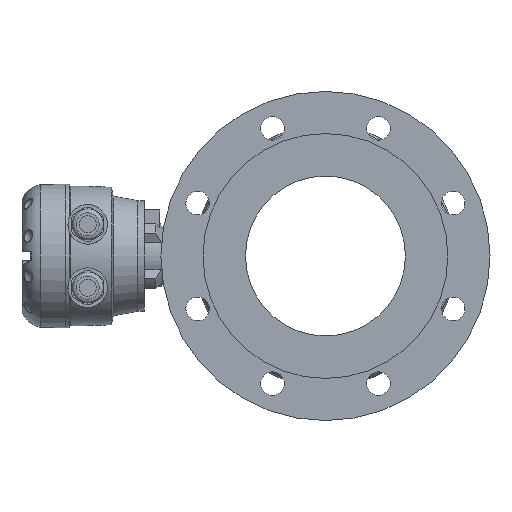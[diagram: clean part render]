
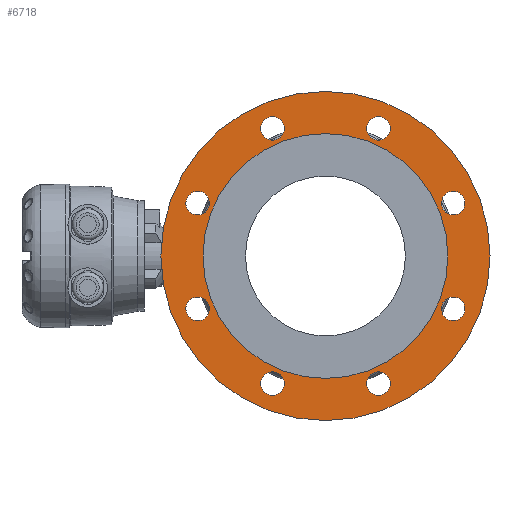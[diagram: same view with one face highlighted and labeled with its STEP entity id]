
A CAD part, left-side view. The second image highlights one B-rep face of the part: STEP entity #6718.
In plain terms, the highlighted planar face has unit normal (-1, 0, 0).
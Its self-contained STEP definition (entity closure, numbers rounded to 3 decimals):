
#692 = PLANE ( 'NONE',  #11926 ) ;
#699 = CARTESIAN_POINT ( 'NONE',  ( -114.805, -131.017, -10.543 ) ) ;
#703 = DIRECTION ( 'NONE',  ( -1., 0., 0. ) ) ;
#704 = DIRECTION ( 'NONE',  ( 0., 0., -1. ) ) ;
#6718 = ADVANCED_FACE ( 'NONE', ( #8316, #8322, #8324, #8326, #8320, #8315, #8323, #8325, #8327, #8321 ), #692, .T. ) ;
#8315 = FACE_BOUND ( 'NONE', #13946, .T. ) ;
#8316 = FACE_BOUND ( 'NONE', #13980, .T. ) ;
#8320 = FACE_BOUND ( 'NONE', #13943, .T. ) ;
#8321 = FACE_BOUND ( 'NONE', #13990, .T. ) ;
#8322 = FACE_BOUND ( 'NONE', #13893, .T. ) ;
#8323 = FACE_BOUND ( 'NONE', #13952, .T. ) ;
#8324 = FACE_BOUND ( 'NONE', #13899, .T. ) ;
#8325 = FACE_BOUND ( 'NONE', #13950, .T. ) ;
#8326 = FACE_BOUND ( 'NONE', #13910, .T. ) ;
#8327 = FACE_OUTER_BOUND ( 'NONE', #13945, .T. ) ;
#8606 = CIRCLE ( 'NONE', #12024, 93. ) ;
#8748 = CIRCLE ( 'NONE', #12071, 9. ) ;
#8768 = CIRCLE ( 'NONE', #12080, 125. ) ;
#8783 = CIRCLE ( 'NONE', #12087, 9. ) ;
#8788 = CIRCLE ( 'NONE', #12090, 9. ) ;
#8791 = CIRCLE ( 'NONE', #12082, 9. ) ;
#8793 = CIRCLE ( 'NONE', #12093, 9. ) ;
#8794 = CIRCLE ( 'NONE', #12094, 9. ) ;
#8796 = CIRCLE ( 'NONE', #12095, 9. ) ;
#8801 = CIRCLE ( 'NONE', #12086, 9. ) ;
#9923 = CARTESIAN_POINT ( 'NONE',  ( -114.805, -131.017, -10.543 ) ) ;
#9926 = DIRECTION ( 'NONE',  ( 1., 0., 0. ) ) ;
#9927 = DIRECTION ( 'NONE',  ( 0., 0., -1. ) ) ;
#10664 = CARTESIAN_POINT ( 'NONE',  ( -114.805, -90.835, 86.465 ) ) ;
#10674 = DIRECTION ( 'NONE',  ( -1., 0., 0. ) ) ;
#10676 = DIRECTION ( 'NONE',  ( 0., 0., 1. ) ) ;
#10735 = CARTESIAN_POINT ( 'NONE',  ( -114.805, -131.017, -10.543 ) ) ;
#10746 = DIRECTION ( 'NONE',  ( 1., 0., 0. ) ) ;
#10748 = DIRECTION ( 'NONE',  ( 0., 0., -1. ) ) ;
#10770 = CARTESIAN_POINT ( 'NONE',  ( -114.805, -34.01, -50.725 ) ) ;
#10788 = DIRECTION ( 'NONE',  ( -1., 0., 0. ) ) ;
#10789 = DIRECTION ( 'NONE',  ( 0., 0., 1. ) ) ;
#10795 = CARTESIAN_POINT ( 'NONE',  ( -114.805, -90.835, -107.55 ) ) ;
#10800 = CARTESIAN_POINT ( 'NONE',  ( -114.805, -228.024, -50.725 ) ) ;
#10807 = DIRECTION ( 'NONE',  ( -1., 0., 0. ) ) ;
#10808 = DIRECTION ( 'NONE',  ( 0., 0., 1. ) ) ;
#10813 = CARTESIAN_POINT ( 'NONE',  ( -114.805, -171.199, -107.55 ) ) ;
#10814 = DIRECTION ( 'NONE',  ( -1., 0., 0. ) ) ;
#10815 = DIRECTION ( 'NONE',  ( 0., 0., 1. ) ) ;
#10816 = CARTESIAN_POINT ( 'NONE',  ( -114.805, -34.01, 29.639 ) ) ;
#10821 = CARTESIAN_POINT ( 'NONE',  ( -114.805, -228.024, 29.639 ) ) ;
#10822 = DIRECTION ( 'NONE',  ( -1., 0., 0. ) ) ;
#10823 = DIRECTION ( 'NONE',  ( 0., 0., 1. ) ) ;
#10824 = DIRECTION ( 'NONE',  ( -1., 0., 0. ) ) ;
#10825 = DIRECTION ( 'NONE',  ( 0., 0., 1. ) ) ;
#10827 = DIRECTION ( 'NONE',  ( -1., 0., 0. ) ) ;
#10828 = DIRECTION ( 'NONE',  ( 0., 0., 1. ) ) ;
#10850 = CARTESIAN_POINT ( 'NONE',  ( -114.805, -171.199, 86.465 ) ) ;
#10857 = DIRECTION ( 'NONE',  ( -1., 0., 0. ) ) ;
#10858 = DIRECTION ( 'NONE',  ( 0., 0., 1. ) ) ;
#11262 = EDGE_CURVE ( 'NONE', #15663, #15663, #8606, .T. ) ;
#11384 = EDGE_CURVE ( 'NONE', #15718, #15718, #8748, .T. ) ;
#11399 = EDGE_CURVE ( 'NONE', #15751, #15751, #8768, .T. ) ;
#11409 = EDGE_CURVE ( 'NONE', #15777, #15777, #8783, .T. ) ;
#11413 = EDGE_CURVE ( 'NONE', #15788, #15788, #8788, .T. ) ;
#11415 = EDGE_CURVE ( 'NONE', #15792, #15792, #8791, .T. ) ;
#11417 = EDGE_CURVE ( 'NONE', #15799, #15799, #8793, .T. ) ;
#11418 = EDGE_CURVE ( 'NONE', #15803, #15803, #8794, .T. ) ;
#11419 = EDGE_CURVE ( 'NONE', #15806, #15806, #8796, .T. ) ;
#11423 = EDGE_CURVE ( 'NONE', #15810, #15810, #8801, .T. ) ;
#11926 = AXIS2_PLACEMENT_3D ( 'NONE', #699, #703, #704 ) ;
#12024 = AXIS2_PLACEMENT_3D ( 'NONE', #9923, #9926, #9927 ) ;
#12071 = AXIS2_PLACEMENT_3D ( 'NONE', #10664, #10674, #10676 ) ;
#12080 = AXIS2_PLACEMENT_3D ( 'NONE', #10735, #10746, #10748 ) ;
#12082 = AXIS2_PLACEMENT_3D ( 'NONE', #10813, #10814, #10815 ) ;
#12086 = AXIS2_PLACEMENT_3D ( 'NONE', #10850, #10857, #10858 ) ;
#12087 = AXIS2_PLACEMENT_3D ( 'NONE', #10770, #10788, #10789 ) ;
#12090 = AXIS2_PLACEMENT_3D ( 'NONE', #10795, #10807, #10808 ) ;
#12093 = AXIS2_PLACEMENT_3D ( 'NONE', #10800, #10822, #10823 ) ;
#12094 = AXIS2_PLACEMENT_3D ( 'NONE', #10816, #10824, #10825 ) ;
#12095 = AXIS2_PLACEMENT_3D ( 'NONE', #10821, #10827, #10828 ) ;
#12601 = ORIENTED_EDGE ( 'NONE', *, *, #11418, .F. ) ;
#12602 = ORIENTED_EDGE ( 'NONE', *, *, #11384, .F. ) ;
#12603 = ORIENTED_EDGE ( 'NONE', *, *, #11423, .F. ) ;
#12604 = ORIENTED_EDGE ( 'NONE', *, *, #11419, .F. ) ;
#12605 = ORIENTED_EDGE ( 'NONE', *, *, #11417, .F. ) ;
#12606 = ORIENTED_EDGE ( 'NONE', *, *, #11415, .F. ) ;
#12607 = ORIENTED_EDGE ( 'NONE', *, *, #11413, .F. ) ;
#12608 = ORIENTED_EDGE ( 'NONE', *, *, #11409, .F. ) ;
#12609 = ORIENTED_EDGE ( 'NONE', *, *, #11399, .F. ) ;
#12610 = ORIENTED_EDGE ( 'NONE', *, *, #11262, .T. ) ;
#13893 = EDGE_LOOP ( 'NONE', ( #12602 ) ) ;
#13899 = EDGE_LOOP ( 'NONE', ( #12603 ) ) ;
#13910 = EDGE_LOOP ( 'NONE', ( #12604 ) ) ;
#13943 = EDGE_LOOP ( 'NONE', ( #12605 ) ) ;
#13945 = EDGE_LOOP ( 'NONE', ( #12609 ) ) ;
#13946 = EDGE_LOOP ( 'NONE', ( #12606 ) ) ;
#13950 = EDGE_LOOP ( 'NONE', ( #12608 ) ) ;
#13952 = EDGE_LOOP ( 'NONE', ( #12607 ) ) ;
#13980 = EDGE_LOOP ( 'NONE', ( #12601 ) ) ;
#13990 = EDGE_LOOP ( 'NONE', ( #12610 ) ) ;
#15663 = VERTEX_POINT ( 'NONE', #15665 ) ;
#15665 = CARTESIAN_POINT ( 'NONE',  ( -114.805, -131.017, -103.543 ) ) ;
#15718 = VERTEX_POINT ( 'NONE', #15720 ) ;
#15720 = CARTESIAN_POINT ( 'NONE',  ( -114.805, -90.835, 95.465 ) ) ;
#15751 = VERTEX_POINT ( 'NONE', #15753 ) ;
#15753 = CARTESIAN_POINT ( 'NONE',  ( -114.805, -131.017, -135.543 ) ) ;
#15777 = VERTEX_POINT ( 'NONE', #15779 ) ;
#15779 = CARTESIAN_POINT ( 'NONE',  ( -114.805, -34.01, -41.725 ) ) ;
#15788 = VERTEX_POINT ( 'NONE', #15790 ) ;
#15790 = CARTESIAN_POINT ( 'NONE',  ( -114.805, -90.835, -98.55 ) ) ;
#15792 = VERTEX_POINT ( 'NONE', #15794 ) ;
#15794 = CARTESIAN_POINT ( 'NONE',  ( -114.805, -171.199, -98.55 ) ) ;
#15799 = VERTEX_POINT ( 'NONE', #15801 ) ;
#15801 = CARTESIAN_POINT ( 'NONE',  ( -114.805, -228.024, -41.725 ) ) ;
#15803 = VERTEX_POINT ( 'NONE', #15805 ) ;
#15805 = CARTESIAN_POINT ( 'NONE',  ( -114.805, -34.01, 38.639 ) ) ;
#15806 = VERTEX_POINT ( 'NONE', #15808 ) ;
#15808 = CARTESIAN_POINT ( 'NONE',  ( -114.805, -228.024, 38.639 ) ) ;
#15810 = VERTEX_POINT ( 'NONE', #15812 ) ;
#15812 = CARTESIAN_POINT ( 'NONE',  ( -114.805, -171.199, 95.465 ) ) ;
